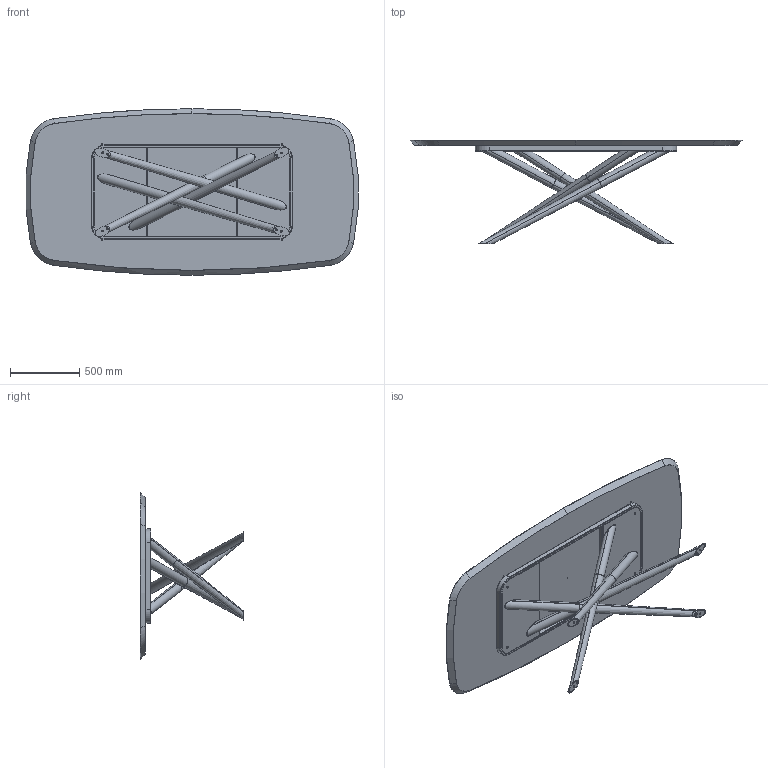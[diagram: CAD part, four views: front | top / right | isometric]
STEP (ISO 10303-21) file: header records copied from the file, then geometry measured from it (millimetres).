
FILE_DESCRIPTION (( 'STEP AP203' ), '1' );
FILE_NAME ('BA43W.STEP', '2024-08-08T06:00:35', ( '' ), ( '' ), 'SwSTEP 2.0', 'SolidWorks 2022', '' );
FILE_SCHEMA (( 'CONFIG_CONTROL_DESIGN' ));
Length unit declared in the file: millimetre
Products named in the file (10): 434070-00-PIEDINO TPV GOMMA NERO D. 30x8max18; BAB100000_03-00-Telaio BALY L240_Default<A macchina>; BA43W; BAB100000_02-00-piede per baly 240; BAB100000-00-BALY BASE GREZZA L240 rettangolare; M8xXXmm_M8x55mm; W4XCMXX-00-Piani Sagomati legno_2400 x 1200; M6xXXmm_HEX_M6x30mm HEX; TR Fastenings Ltd-M6_M6; BAB100000_01-00-Gambe saldate BALY 240_Default<A macchina>
Assembly tree (24 placements, depth 3):
  BA43W
    W4XCMXX-00-Piani Sagomati legno_2400 x 1200
    BAB100000-00-BALY BASE GREZZA L240 rettangolare
      BAB100000_01-00-Gambe saldate BALY 240_Default<A macchina>
      BAB100000_03-00-Telaio BALY L240_Default<A macchina>
      BAB100000_02-00-piede per baly 240  x4
      TR Fastenings Ltd-M6_M6  x2
      M6xXXmm_HEX_M6x30mm HEX  x8
    434070-00-PIEDINO TPV GOMMA NERO D. 30x8max18  x2
    M8xXXmm_M8x55mm  x4
Bounding box: 2391.9 x 747 x 1200 mm (x, y, z)
Volume: 102797562.8 mm3; surface area: 9671323.2 mm2
Topology: 35 solids, 35 shells, 847 faces, 1778 edges, 976 vertices
Faces by surface type: plane 350, cylinder 227, cone 171, torus 81, bspline 18
Entity records: 13377 total; most frequent: CARTESIAN_POINT 2284, DIRECTION 2195, ORIENTED_EDGE 1856, EDGE_CURVE 928, AXIS2_PLACEMENT_3D 876, VERTEX_POINT 535, EDGE_LOOP 501, ADVANCED_FACE 450
